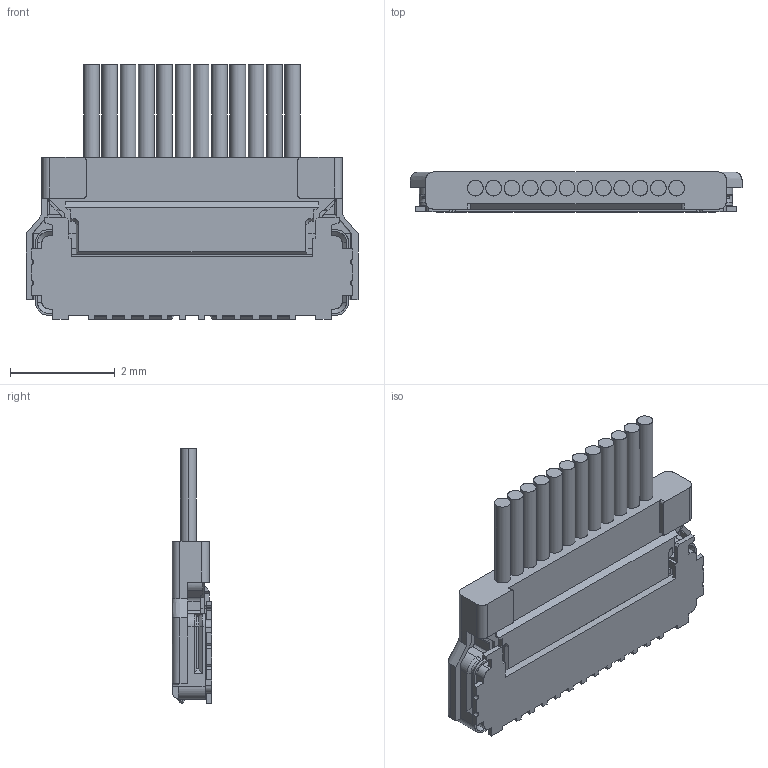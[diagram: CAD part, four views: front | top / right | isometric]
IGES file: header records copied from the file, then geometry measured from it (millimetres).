
Start section: SolidWorks IGES file using analytic representation for surfaces
Bounding box: 6.35 x 0.76 x 4.88 mm (x, y, z)
Surface area: 96.5 mm2 (no closed solid volume)
Topology: 0 solids, 0 shells, 545 faces, 3702 edges, 3702 vertices
Faces by surface type: bspline 377, revolution 168
